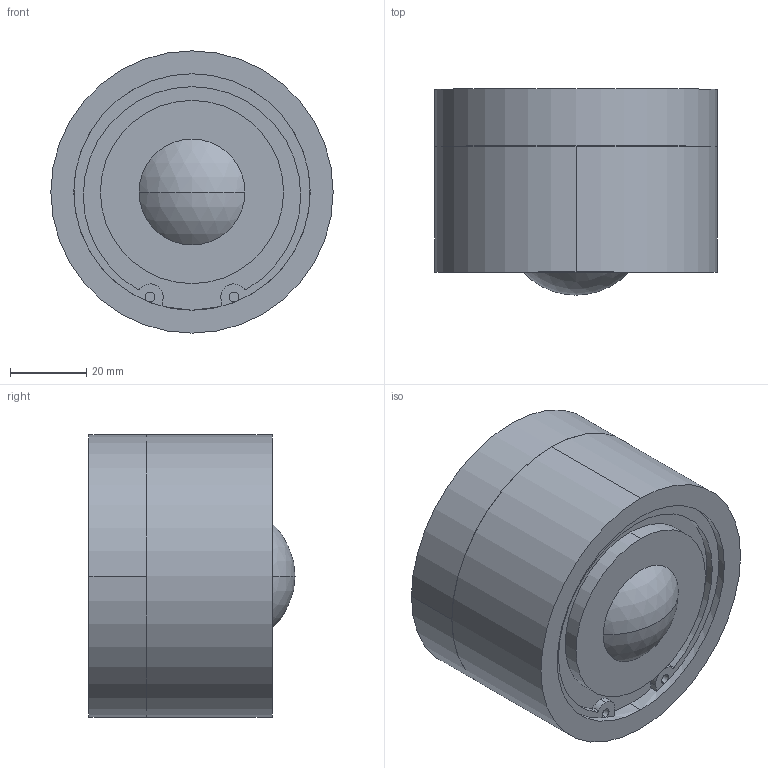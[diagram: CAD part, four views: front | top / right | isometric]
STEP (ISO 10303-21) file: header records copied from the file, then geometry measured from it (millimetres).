
FILE_DESCRIPTION (( 'STEP AP203' ), '1' );
FILE_NAME ('PFC-5.STEP', '2016-01-13T06:15:20', ( '' ), ( '' ), 'SwSTEP 2.0', 'SolidWorks 2013', '' );
FILE_SCHEMA (( 'CONFIG_CONTROL_DESIGN' ));
Length unit declared in the file: millimetre
Products named in the file (1): PFC-5
Bounding box: 74 x 54 x 74 mm (x, y, z)
Volume: 201111.3 mm3; surface area: 23882.8 mm2
Topology: 1 solids, 1 shells, 51 faces, 119 edges, 73 vertices
Faces by surface type: cylinder 30, plane 11, cone 8, sphere 2
Entity records: 1504 total; most frequent: DIRECTION 281, CARTESIAN_POINT 236, ORIENTED_EDGE 222, AXIS2_PLACEMENT_3D 118, EDGE_CURVE 111, VERTEX_POINT 73, CIRCLE 66, EDGE_LOOP 62
